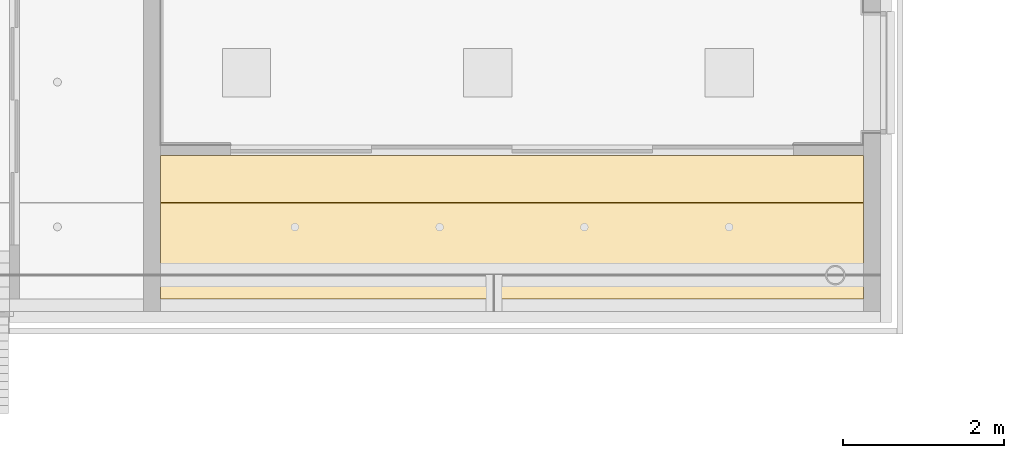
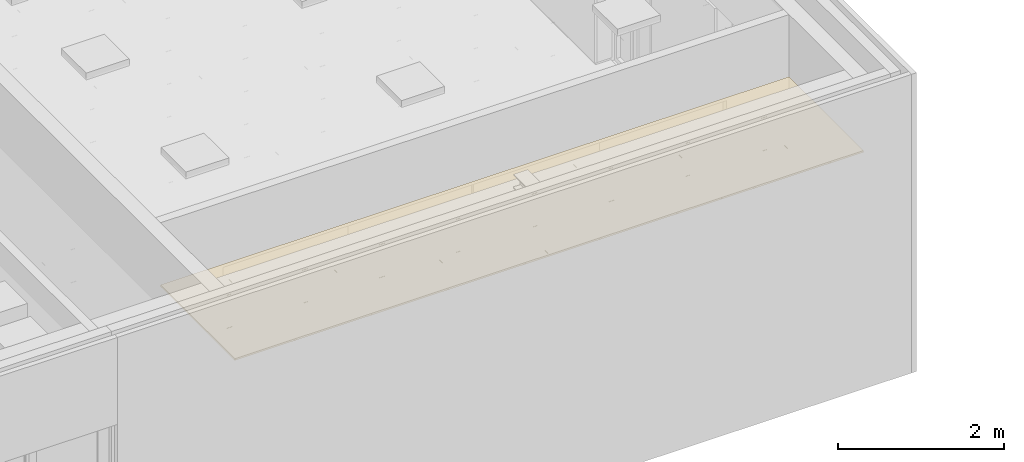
# One storey, part 168 of 347: 1 covering.
"""IFC2X3 building model written with IfcOpenShell, lengths in millimetres."""

from ifc_helpers import new_model, entity, si_unit, converted_unit, derived_unit, money_unit, direction, frame, origin_with_axes, place, context, subcontext, project, spatial, faceted_brep, type_object, element, save


model = new_model("IFC2X3")

# Units and contexts
model_context = context("Model", 3, precision=0.01, world=origin_with_axes(), true_north=direction((0.0, 1.0)))
plan_context = context("Plan", 3, precision=0.01, world=origin_with_axes(), true_north=direction((0.0, 1.0)))
body_context = subcontext(model_context, "Body", "Model", "MODEL_VIEW")
ifc_project = project(units=[si_unit("LENGTHUNIT", "METRE", prefix="MILLI"), si_unit("AREAUNIT", "SQUARE_METRE"), si_unit("VOLUMEUNIT", "CUBIC_METRE"), converted_unit("PLANEANGLEUNIT", "DEGREE", entity("IfcPlaneAngleMeasure", 0.0174532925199), si_unit("PLANEANGLEUNIT", "RADIAN"), dimensions=[0, 0, 0, 0, 0, 0, 0]), money_unit("EUR"), converted_unit("TIMEUNIT", "Year", entity("IfcTimeMeasure", 31556926.0), si_unit("TIMEUNIT", "SECOND"), dimensions=[0, 0, 1, 0, 0, 0, 0]), si_unit("MASSUNIT", "GRAM", prefix="KILO"), si_unit("THERMODYNAMICTEMPERATUREUNIT", "DEGREE_CELSIUS"), si_unit("LUMINOUSINTENSITYUNIT", "LUMEN"), si_unit("ENERGYUNIT", "JOULE", prefix="MEGA"), derived_unit("THERMALCONDUCTANCEUNIT", [(si_unit("POWERUNIT", "WATT"), 1), (si_unit("LENGTHUNIT", "METRE"), -1), (si_unit("THERMODYNAMICTEMPERATUREUNIT", "KELVIN"), -1)]), derived_unit("SPECIFICHEATCAPACITYUNIT", [(si_unit("ENERGYUNIT", "JOULE"), 1), (si_unit("MASSUNIT", "GRAM", prefix="KILO"), -1), (si_unit("THERMODYNAMICTEMPERATUREUNIT", "KELVIN"), -1)]), derived_unit("MASSDENSITYUNIT", [(si_unit("MASSUNIT", "GRAM", prefix="KILO"), 1), (si_unit("VOLUMEUNIT", "CUBIC_METRE"), -1)])], contexts=[model_context, plan_context])

# Site, building, storey
site_placement = place(None, origin_with_axes())
site = spatial("IfcSite", under=ifc_project, at=site_placement, Name="Site", CompositionType="ELEMENT")
building_placement = place(site_placement, origin_with_axes())
building = spatial("IfcBuilding", under=site, at=building_placement, Name="Naam gebouw", CompositionType="ELEMENT")
storey_placement = place(building_placement, origin_with_axes())
storey = spatial("IfcBuildingStorey", under=building, at=storey_placement, Name="begane grond", CompositionType="ELEMENT", Elevation=0.0)

# Covering
covering_type = type_object("IfcCoveringType", Name="Ceiling Editor INT_v2.01", PredefinedType="CEILING")
covering_placement = place(storey_placement, frame((35705.0, 4999.9999988, 2627.0), z_axis=(0.0, 0.0, 1.0), x_axis=(1.0, 0.0, 0.0)))
element("IfcCovering", 1, at=covering_placement, inside=storey, type_object=covering_type, Name="45 Plafondafwerkingen_77 garderobe", PredefinedType="CEILING", context=body_context, shape_type="Brep", body=[
    faceted_brep([(0.0, 599.9, 0.0), (0.0, 599.9, 20.0), (769.900088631, 599.9, 20.0), (769.900088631, 599.9, 0.0), (0.0, 447.502384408, 0.0), (0.0, 447.502384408, 20.0), (0.0, 0.1, 20.0), (769.900088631, 0.1, 20.0), (769.900088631, 0.1, 0.0), (0.0, 0.1, 0.0)], [[[0, 1, 2, 3]], [[1, 0, 4, 5]], [[5, 6, 7, 2, 1]], [[7, 8, 3, 2]], [[4, 0, 3, 8, 9]], [[6, 5, 4, 9]], [[6, 9, 8, 7]]]),
    faceted_brep([(0.0, 1199.9, 0.0), (0.0, 1199.9, 20.0), (769.900088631, 1199.9, 20.0), (769.900088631, 1199.9, 0.0), (0.0, 895.004768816, 0.0), (0.0, 895.004768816, 20.0), (0.0, 600.1, 20.0), (769.900088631, 600.1, 20.0), (769.900088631, 600.1, 0.0), (0.0, 600.1, 0.0)], [[[0, 1, 2, 3]], [[1, 0, 4, 5]], [[5, 6, 7, 2, 1]], [[7, 8, 3, 2]], [[4, 0, 3, 8, 9]], [[6, 5, 4, 9]], [[6, 9, 8, 7]]]),
    faceted_brep([(769.900088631, 1790.00953763, 0.0), (769.900088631, 1790.00953763, 20.0), (769.900088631, 1200.1, 20.0), (769.900088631, 1200.1, 0.0), (0.0, 1790.00953763, 0.0), (0.0, 1790.00953763, 20.0), (0.0, 1342.50715322, 20.0), (0.0, 1200.1, 20.0), (0.0, 1200.1, 0.0), (0.0, 1342.50715322, 0.0)], [[[0, 1, 2, 3]], [[1, 0, 4, 5]], [[6, 7, 2, 1, 5]], [[7, 8, 3, 2]], [[4, 0, 3, 8, 9]], [[6, 5, 4, 9]], [[7, 6, 9, 8]]]),
    faceted_brep([(1969.90008863, 0.1, 20.0), (1969.90008863, 0.1, 0.0), (1969.90008863, 599.9, 0.0), (1969.90008863, 599.9, 20.0), (770.100088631, 0.1, 20.0), (770.100088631, 0.1, 0.0), (770.100088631, 599.9, 0.0), (770.100088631, 599.9, 20.0)], [[[0, 1, 2, 3]], [[4, 5, 1, 0]], [[2, 1, 5, 6]], [[3, 2, 6, 7]], [[4, 0, 3, 7]], [[7, 6, 5, 4]]]),
    faceted_brep([(1969.90008863, 600.1, 20.0), (1969.90008863, 600.1, 0.0), (1969.90008863, 1199.9, 0.0), (1969.90008863, 1199.9, 20.0), (770.100088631, 600.1, 20.0), (770.100088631, 600.1, 0.0), (770.100088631, 1199.9, 0.0), (770.100088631, 1199.9, 20.0)], [[[0, 1, 2, 3]], [[4, 5, 1, 0]], [[2, 1, 5, 6]], [[3, 2, 6, 7]], [[4, 0, 3, 7]], [[7, 6, 5, 4]]]),
    faceted_brep([(1969.90008863, 1790.00953763, 0.0), (1969.90008863, 1790.00953763, 20.0), (1969.90008863, 1200.1, 20.0), (1969.90008863, 1200.1, 0.0), (770.100088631, 1790.00953763, 0.0), (770.100088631, 1790.00953763, 20.0), (770.100088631, 1200.1, 20.0), (770.100088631, 1200.1, 0.0)], [[[0, 1, 2, 3]], [[1, 0, 4, 5]], [[1, 5, 6, 2]], [[6, 7, 3, 2]], [[4, 0, 3, 7]], [[5, 4, 7, 6]]]),
    faceted_brep([(3169.90008863, 0.1, 20.0), (3169.90008863, 0.1, 0.0), (3169.90008863, 599.9, 0.0), (3169.90008863, 599.9, 20.0), (1970.10008863, 0.1, 20.0), (1970.10008863, 0.1, 0.0), (1970.10008863, 599.9, 0.0), (1970.10008863, 599.9, 20.0)], [[[0, 1, 2, 3]], [[4, 5, 1, 0]], [[2, 1, 5, 6]], [[3, 2, 6, 7]], [[4, 0, 3, 7]], [[7, 6, 5, 4]]]),
    faceted_brep([(3169.90008863, 600.1, 20.0), (3169.90008863, 600.1, 0.0), (3169.90008863, 1199.9, 0.0), (3169.90008863, 1199.9, 20.0), (1970.10008863, 600.1, 20.0), (1970.10008863, 600.1, 0.0), (1970.10008863, 1199.9, 0.0), (1970.10008863, 1199.9, 20.0)], [[[0, 1, 2, 3]], [[4, 5, 1, 0]], [[2, 1, 5, 6]], [[3, 2, 6, 7]], [[4, 0, 3, 7]], [[7, 6, 5, 4]]]),
    faceted_brep([(3169.90008863, 1790.00953763, 0.0), (3169.90008863, 1790.00953763, 20.0), (3169.90008863, 1200.1, 20.0), (3169.90008863, 1200.1, 0.0), (2185.00009571, 1790.00953763, 0.0), (2185.00009571, 1790.00953763, 20.0), (1970.10008863, 1790.00953763, 20.0), (1970.10008863, 1200.1, 20.0), (1970.10008863, 1200.1, 0.0), (1970.10008863, 1790.00953763, 0.0)], [[[0, 1, 2, 3]], [[1, 0, 4, 5]], [[5, 6, 7, 2, 1]], [[7, 8, 3, 2]], [[4, 0, 3, 8, 9]], [[6, 5, 4, 9]], [[6, 9, 8, 7]]]),
    faceted_brep([(4369.90008863, 0.1, 20.0), (4369.90008863, 0.1, 0.0), (4369.90008863, 599.9, 0.0), (4369.90008863, 599.9, 20.0), (3170.10008863, 0.1, 20.0), (3170.10008863, 0.1, 0.0), (3170.10008863, 599.9, 0.0), (3170.10008863, 599.9, 20.0)], [[[0, 1, 2, 3]], [[4, 5, 1, 0]], [[2, 1, 5, 6]], [[3, 2, 6, 7]], [[4, 0, 3, 7]], [[7, 6, 5, 4]]]),
    faceted_brep([(4369.90008863, 600.1, 20.0), (4369.90008863, 600.1, 0.0), (4369.90008863, 1199.9, 0.0), (4369.90008863, 1199.9, 20.0), (3170.10008863, 600.1, 20.0), (3170.10008863, 600.1, 0.0), (3170.10008863, 1199.9, 0.0), (3170.10008863, 1199.9, 20.0)], [[[0, 1, 2, 3]], [[4, 5, 1, 0]], [[2, 1, 5, 6]], [[3, 2, 6, 7]], [[4, 0, 3, 7]], [[7, 6, 5, 4]]]),
    faceted_brep([(4369.90008863, 1790.00953763, 0.0), (4369.90008863, 1790.00953763, 20.0), (4369.90008863, 1200.1, 20.0), (4369.90008863, 1200.1, 0.0), (3170.10008863, 1790.00953763, 0.0), (3170.10008863, 1790.00953763, 20.0), (3170.10008863, 1200.1, 20.0), (3170.10008863, 1200.1, 0.0)], [[[0, 1, 2, 3]], [[1, 0, 4, 5]], [[1, 5, 6, 2]], [[6, 7, 3, 2]], [[4, 0, 3, 7]], [[5, 4, 7, 6]]]),
    faceted_brep([(5569.90008863, 0.1, 20.0), (5569.90008863, 0.1, 0.0), (5569.90008863, 599.9, 0.0), (5569.90008863, 599.9, 20.0), (4370.10008863, 0.1, 20.0), (4370.10008863, 0.1, 0.0), (4370.10008863, 599.9, 0.0), (4370.10008863, 599.9, 20.0)], [[[0, 1, 2, 3]], [[4, 5, 1, 0]], [[2, 1, 5, 6]], [[3, 2, 6, 7]], [[4, 0, 3, 7]], [[7, 6, 5, 4]]]),
    faceted_brep([(5569.90008863, 600.1, 20.0), (5569.90008863, 600.1, 0.0), (5569.90008863, 1199.9, 0.0), (5569.90008863, 1199.9, 20.0), (4370.10008863, 600.1, 20.0), (4370.10008863, 600.1, 0.0), (4370.10008863, 1199.9, 0.0), (4370.10008863, 1199.9, 20.0)], [[[0, 1, 2, 3]], [[4, 5, 1, 0]], [[2, 1, 5, 6]], [[3, 2, 6, 7]], [[4, 0, 3, 7]], [[7, 6, 5, 4]]]),
    faceted_brep([(5569.90008863, 1790.00953763, 0.0), (5569.90008863, 1790.00953763, 20.0), (5569.90008863, 1200.1, 20.0), (5569.90008863, 1200.1, 0.0), (4370.10008863, 1790.00953763, 0.0), (4370.10008863, 1790.00953763, 20.0), (4370.10008863, 1200.1, 20.0), (4370.10008863, 1200.1, 0.0)], [[[0, 1, 2, 3]], [[1, 0, 4, 5]], [[1, 5, 6, 2]], [[6, 7, 3, 2]], [[4, 0, 3, 7]], [[5, 4, 7, 6]]]),
    faceted_brep([(6769.90008863, 0.1, 20.0), (6769.90008863, 0.1, 0.0), (6769.90008863, 599.9, 0.0), (6769.90008863, 599.9, 20.0), (5570.10008863, 0.1, 20.0), (5570.10008863, 0.1, 0.0), (5570.10008863, 599.9, 0.0), (5570.10008863, 599.9, 20.0)], [[[0, 1, 2, 3]], [[4, 5, 1, 0]], [[2, 1, 5, 6]], [[3, 2, 6, 7]], [[4, 0, 3, 7]], [[7, 6, 5, 4]]]),
    faceted_brep([(6769.90008863, 600.1, 20.0), (6769.90008863, 600.1, 0.0), (6769.90008863, 1199.9, 0.0), (6769.90008863, 1199.9, 20.0), (5570.10008863, 600.1, 20.0), (5570.10008863, 600.1, 0.0), (5570.10008863, 1199.9, 0.0), (5570.10008863, 1199.9, 20.0)], [[[0, 1, 2, 3]], [[4, 5, 1, 0]], [[2, 1, 5, 6]], [[3, 2, 6, 7]], [[4, 0, 3, 7]], [[7, 6, 5, 4]]]),
    faceted_brep([(6769.90008863, 1790.00953763, 0.0), (6769.90008863, 1790.00953763, 20.0), (6769.90008863, 1200.1, 20.0), (6769.90008863, 1200.1, 0.0), (6555.00028712, 1790.00953763, 0.0), (6555.00028712, 1790.00953763, 20.0), (5570.10008863, 1790.00953763, 20.0), (5570.10008863, 1200.1, 20.0), (5570.10008863, 1200.1, 0.0), (5570.10008863, 1790.00953763, 0.0)], [[[0, 1, 2, 3]], [[1, 0, 4, 5]], [[5, 6, 7, 2, 1]], [[7, 8, 3, 2]], [[4, 0, 3, 8, 9]], [[6, 5, 4, 9]], [[6, 9, 8, 7]]]),
    faceted_brep([(7969.90008863, 0.1, 20.0), (7969.90008863, 0.1, 0.0), (7969.90008863, 599.9, 0.0), (7969.90008863, 599.9, 20.0), (6770.10008863, 0.1, 20.0), (6770.10008863, 0.1, 0.0), (6770.10008863, 599.9, 0.0), (6770.10008863, 599.9, 20.0)], [[[0, 1, 2, 3]], [[4, 5, 1, 0]], [[2, 1, 5, 6]], [[3, 2, 6, 7]], [[4, 0, 3, 7]], [[7, 6, 5, 4]]]),
    faceted_brep([(7969.90008863, 600.1, 20.0), (7969.90008863, 600.1, 0.0), (7969.90008863, 1199.9, 0.0), (7969.90008863, 1199.9, 20.0), (6770.10008863, 600.1, 20.0), (6770.10008863, 600.1, 0.0), (6770.10008863, 1199.9, 0.0), (6770.10008863, 1199.9, 20.0)], [[[0, 1, 2, 3]], [[4, 5, 1, 0]], [[2, 1, 5, 6]], [[3, 2, 6, 7]], [[4, 0, 3, 7]], [[7, 6, 5, 4]]]),
    faceted_brep([(7969.90008863, 1790.00953763, 0.0), (7969.90008863, 1790.00953763, 20.0), (7969.90008863, 1200.1, 20.0), (7969.90008863, 1200.1, 0.0), (6770.10008863, 1790.00953763, 0.0), (6770.10008863, 1790.00953763, 20.0), (6770.10008863, 1200.1, 20.0), (6770.10008863, 1200.1, 0.0)], [[[0, 1, 2, 3]], [[1, 0, 4, 5]], [[1, 5, 6, 2]], [[6, 7, 3, 2]], [[4, 0, 3, 7]], [[5, 4, 7, 6]]]),
    faceted_brep([(8740.00038283, 447.502384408, 20.0), (8740.00038283, 599.9, 20.0), (7970.10008863, 599.9, 20.0), (7970.10008863, 0.1, 20.0), (8740.00038283, 0.1, 20.0), (8740.00038283, 447.502384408, 0.0), (8740.00038283, 599.9, 0.0), (7970.10008863, 599.9, 0.0), (7970.10008863, 0.1, 0.0), (8740.00038283, 0.1, 0.0)], [[[0, 1, 2, 3, 4]], [[1, 0, 5, 6]], [[1, 6, 7, 2]], [[2, 7, 8, 3]], [[9, 4, 3, 8]], [[0, 4, 9, 5]], [[5, 9, 8, 7, 6]]]),
    faceted_brep([(8740.00038283, 895.004768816, 20.0), (8740.00038283, 1199.9, 20.0), (7970.10008863, 1199.9, 20.0), (7970.10008863, 600.1, 20.0), (8740.00038283, 600.1, 20.0), (8740.00038283, 895.004768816, 0.0), (8740.00038283, 1199.9, 0.0), (7970.10008863, 1199.9, 0.0), (7970.10008863, 600.1, 0.0), (8740.00038283, 600.1, 0.0)], [[[0, 1, 2, 3, 4]], [[1, 0, 5, 6]], [[1, 6, 7, 2]], [[2, 7, 8, 3]], [[9, 4, 3, 8]], [[0, 4, 9, 5]], [[5, 9, 8, 7, 6]]]),
    faceted_brep([(8740.00038283, 1342.50715322, 20.0), (8740.00038283, 1790.00953763, 20.0), (7970.10008863, 1790.00953763, 20.0), (7970.10008863, 1200.1, 20.0), (8740.00038283, 1200.1, 20.0), (8740.00038283, 1342.50715322, 0.0), (8740.00038283, 1790.00953763, 0.0), (7970.10008863, 1790.00953763, 0.0), (7970.10008863, 1200.1, 0.0), (8740.00038283, 1200.1, 0.0)], [[[0, 1, 2, 3, 4]], [[1, 0, 5, 6]], [[2, 1, 6, 7]], [[2, 7, 8, 3]], [[9, 4, 3, 8]], [[0, 4, 9, 5]], [[5, 9, 8, 7, 6]]]),
    faceted_brep([(3157.50008863, 25.0, -5.0), (3157.50008863, 25.0, 0.0), (3157.50008863, 587.5, 0.0), (3157.50008863, 587.5, -5.0), (1982.50008863, 25.0, -5.0), (1982.50008863, 25.0, 0.0), (8740.00038283, 587.5, 0.0), (8740.00038283, 612.5, 0.0), (8740.00038283, 1187.5, 0.0), (8740.00038283, 1212.5, 0.0), (8740.00038283, 1787.5, 0.0), (8740.00038283, 1790.00953763, 0.0), (6555.00028712, 1790.00953763, 0.0), (4370.00019141, 1790.00953763, 0.0), (2185.00009571, 1790.00953763, 0.0), (0.0, 1790.00953763, 0.0), (0.0, 1787.5, 0.0), (0.0, 1212.5, 0.0), (0.0, 1187.5, 0.0), (0.0, 612.5, 0.0), (0.0, 587.5, 0.0), (0.0, 12.5, 0.0), (0.0, 0.0, 0.0), (2185.00009571, 0.0, 0.0), (4370.00019141, 0.0, 0.0), (6555.00028712, 0.0, 0.0), (8740.00038283, 0.0, 0.0), (8740.00038283, 12.5, 0.0), (782.500088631, 1187.5, 0.0), (1957.50008863, 1187.5, 0.0), (1957.50008863, 612.5, 0.0), (782.500088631, 612.5, 0.0), (3157.50008863, 1765.00953763, 0.0), (3157.50008863, 1212.5, 0.0), (1982.50008863, 1212.5, 0.0), (1982.50008863, 1765.00953763, 0.0), (3182.50008863, 1187.5, 0.0), (4357.50008863, 1187.5, 0.0), (4357.50008863, 612.5, 0.0), (3182.50008863, 612.5, 0.0), (4382.50008863, 1187.5, 0.0), (5557.50008863, 1187.5, 0.0), (5557.50008863, 612.5, 0.0), (4382.50008863, 612.5, 0.0), (5582.50008863, 1187.5, 0.0), (6757.50008863, 1187.5, 0.0), (6757.50008863, 612.5, 0.0), (5582.50008863, 612.5, 0.0), (6782.50008863, 1187.5, 0.0), (7957.50008863, 1187.5, 0.0), (7957.50008863, 612.5, 0.0), (6782.50008863, 612.5, 0.0), (1957.50008863, 25.0, 0.0), (782.500088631, 25.0, 0.0), (782.500088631, 587.5, 0.0), (1957.50008863, 587.5, 0.0), (1982.50008863, 587.5, 0.0), (4357.50008863, 25.0, 0.0), (3182.50008863, 25.0, 0.0), (3182.50008863, 587.5, 0.0), (4357.50008863, 587.5, 0.0), (5557.50008863, 25.0, 0.0), (4382.50008863, 25.0, 0.0), (4382.50008863, 587.5, 0.0), (5557.50008863, 587.5, 0.0), (5582.50008863, 25.0, 0.0), (5582.50008863, 587.5, 0.0), (6757.50008863, 587.5, 0.0), (6757.50008863, 25.0, 0.0), (7957.50008863, 25.0, 0.0), (6782.50008863, 25.0, 0.0), (6782.50008863, 587.5, 0.0), (7957.50008863, 587.5, 0.0), (1957.50008863, 1765.00953763, 0.0), (1957.50008863, 1212.5, 0.0), (782.500088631, 1212.5, 0.0), (782.500088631, 1765.00953763, 0.0), (1982.50008863, 1187.5, 0.0), (3157.50008863, 1187.5, 0.0), (3157.50008863, 612.5, 0.0), (1982.50008863, 612.5, 0.0), (4357.50008863, 1765.00953763, 0.0), (4357.50008863, 1212.5, 0.0), (3182.50008863, 1212.5, 0.0), (3182.50008863, 1765.00953763, 0.0), (5557.50008863, 1765.00953763, 0.0), (5557.50008863, 1212.5, 0.0), (4382.50008863, 1212.5, 0.0), (4382.50008863, 1765.00953763, 0.0), (6757.50008863, 1765.00953763, 0.0), (6757.50008863, 1212.5, 0.0), (5582.50008863, 1212.5, 0.0), (5582.50008863, 1765.00953763, 0.0), (7957.50008863, 1765.00953763, 0.0), (7957.50008863, 1212.5, 0.0), (6782.50008863, 1212.5, 0.0), (6782.50008863, 1765.00953763, 0.0), (25.0, 587.5, 0.0), (757.500088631, 587.5, 0.0), (757.500088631, 25.0, 0.0), (25.0, 25.0, 0.0), (25.0, 1187.5, 0.0), (757.500088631, 1187.5, 0.0), (757.500088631, 612.5, 0.0), (25.0, 612.5, 0.0), (757.500088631, 1765.00953763, 0.0), (757.500088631, 1212.5, 0.0), (25.0, 1212.5, 0.0), (25.0, 1765.00953763, 0.0), (8715.00038283, 1212.5, 0.0), (7982.50008863, 1212.5, 0.0), (7982.50008863, 1765.00953763, 0.0), (8715.00038283, 1765.00953763, 0.0), (8715.00038283, 612.5, 0.0), (7982.50008863, 612.5, 0.0), (7982.50008863, 1187.5, 0.0), (8715.00038283, 1187.5, 0.0), (8715.00038283, 25.0, 0.0), (7982.50008863, 25.0, 0.0), (7982.50008863, 587.5, 0.0), (8715.00038283, 587.5, 0.0), (1982.50008863, 587.5, -5.0), (8740.00038283, 12.5, -5.0), (8740.00038283, 0.0, -5.0), (6555.00028712, 0.0, -5.0), (4370.00019141, 0.0, -5.0), (2185.00009571, 0.0, -5.0), (0.0, 0.0, -5.0), (0.0, 12.5, -5.0), (0.0, 587.5, -5.0), (0.0, 612.5, -5.0), (0.0, 1187.5, -5.0), (0.0, 1212.5, -5.0), (0.0, 1787.5, -5.0), (0.0, 1790.00953763, -5.0), (2185.00009571, 1790.00953763, -5.0), (4370.00019141, 1790.00953763, -5.0), (6555.00028712, 1790.00953763, -5.0), (8740.00038283, 1790.00953763, -5.0), (8740.00038283, 1787.5, -5.0), (8740.00038283, 1212.5, -5.0), (8740.00038283, 1187.5, -5.0), (8740.00038283, 612.5, -5.0), (8740.00038283, 587.5, -5.0), (782.500088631, 1765.00953763, -5.0), (782.500088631, 1212.5, -5.0), (1957.50008863, 1212.5, -5.0), (1957.50008863, 1765.00953763, -5.0), (3157.50008863, 612.5, -5.0), (3157.50008863, 1187.5, -5.0), (1982.50008863, 1187.5, -5.0), (1982.50008863, 612.5, -5.0), (4357.50008863, 612.5, -5.0), (4357.50008863, 1187.5, -5.0), (3182.50008863, 1187.5, -5.0), (3182.50008863, 612.5, -5.0), (5557.50008863, 612.5, -5.0), (5557.50008863, 1187.5, -5.0), (4382.50008863, 1187.5, -5.0), (4382.50008863, 612.5, -5.0), (6757.50008863, 612.5, -5.0), (6757.50008863, 1187.5, -5.0), (5582.50008863, 1187.5, -5.0), (5582.50008863, 612.5, -5.0), (7957.50008863, 612.5, -5.0), (7957.50008863, 1187.5, -5.0), (6782.50008863, 1187.5, -5.0), (6782.50008863, 612.5, -5.0), (1957.50008863, 25.0, -5.0), (1957.50008863, 587.5, -5.0), (782.500088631, 587.5, -5.0), (782.500088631, 25.0, -5.0), (4357.50008863, 25.0, -5.0), (4357.50008863, 587.5, -5.0), (3182.50008863, 587.5, -5.0), (3182.50008863, 25.0, -5.0), (5557.50008863, 25.0, -5.0), (5557.50008863, 587.5, -5.0), (4382.50008863, 587.5, -5.0), (4382.50008863, 25.0, -5.0), (6757.50008863, 25.0, -5.0), (6757.50008863, 587.5, -5.0), (5582.50008863, 587.5, -5.0), (5582.50008863, 25.0, -5.0), (7957.50008863, 25.0, -5.0), (7957.50008863, 587.5, -5.0), (6782.50008863, 587.5, -5.0), (6782.50008863, 25.0, -5.0), (1957.50008863, 612.5, -5.0), (1957.50008863, 1187.5, -5.0), (782.500088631, 1187.5, -5.0), (782.500088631, 612.5, -5.0), (1982.50008863, 1765.00953763, -5.0), (1982.50008863, 1212.5, -5.0), (3157.50008863, 1212.5, -5.0), (3157.50008863, 1765.00953763, -5.0), (3182.50008863, 1765.00953763, -5.0), (3182.50008863, 1212.5, -5.0), (4357.50008863, 1212.5, -5.0), (4357.50008863, 1765.00953763, -5.0), (4382.50008863, 1765.00953763, -5.0), (4382.50008863, 1212.5, -5.0), (5557.50008863, 1212.5, -5.0), (5557.50008863, 1765.00953763, -5.0), (5582.50008863, 1765.00953763, -5.0), (5582.50008863, 1212.5, -5.0), (6757.50008863, 1212.5, -5.0), (6757.50008863, 1765.00953763, -5.0), (6782.50008863, 1765.00953763, -5.0), (6782.50008863, 1212.5, -5.0), (7957.50008863, 1212.5, -5.0), (7957.50008863, 1765.00953763, -5.0), (25.0, 587.5, -5.0), (25.0, 25.0, -5.0), (757.500088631, 25.0, -5.0), (757.500088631, 587.5, -5.0), (25.0, 1187.5, -5.0), (25.0, 612.5, -5.0), (757.500088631, 612.5, -5.0), (757.500088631, 1187.5, -5.0), (25.0, 1765.00953763, -5.0), (25.0, 1212.5, -5.0), (757.500088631, 1212.5, -5.0), (757.500088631, 1765.00953763, -5.0), (8715.00038283, 1765.00953763, -5.0), (7982.50008863, 1765.00953763, -5.0), (7982.50008863, 1212.5, -5.0), (8715.00038283, 1212.5, -5.0), (8715.00038283, 1187.5, -5.0), (7982.50008863, 1187.5, -5.0), (7982.50008863, 612.5, -5.0), (8715.00038283, 612.5, -5.0), (8715.00038283, 25.0, -5.0), (8715.00038283, 587.5, -5.0), (7982.50008863, 587.5, -5.0), (7982.50008863, 25.0, -5.0)], [[[0, 1, 2, 3]], [[1, 0, 4, 5]], [[6, 7, 8, 9, 10, 11, 12, 13, 14, 15, 16, 17, 18, 19, 20, 21, 22, 23, 24, 25, 26, 27], [28, 29, 30, 31], [32, 33, 34, 35], [36, 37, 38, 39], [40, 41, 42, 43], [44, 45, 46, 47], [48, 49, 50, 51], [52, 53, 54, 55], [1, 5, 56, 2], [57, 58, 59, 60], [61, 62, 63, 64], [65, 66, 67, 68], [69, 70, 71, 72], [73, 74, 75, 76], [77, 78, 79, 80], [81, 82, 83, 84], [85, 86, 87, 88], [89, 90, 91, 92], [93, 94, 95, 96], [97, 98, 99, 100], [101, 102, 103, 104], [105, 106, 107, 108], [109, 110, 111, 112], [113, 114, 115, 116], [117, 118, 119, 120]], [[121, 3, 2, 56]], [[122, 123, 124, 125, 126, 127, 128, 129, 130, 131, 132, 133, 134, 135, 136, 137, 138, 139, 140, 141, 142, 143], [144, 145, 146, 147], [148, 149, 150, 151], [152, 153, 154, 155], [156, 157, 158, 159], [160, 161, 162, 163], [164, 165, 166, 167], [168, 169, 170, 171], [0, 3, 121, 4], [172, 173, 174, 175], [176, 177, 178, 179], [180, 181, 182, 183], [184, 185, 186, 187], [188, 189, 190, 191], [192, 193, 194, 195], [196, 197, 198, 199], [200, 201, 202, 203], [204, 205, 206, 207], [208, 209, 210, 211], [212, 213, 214, 215], [216, 217, 218, 219], [220, 221, 222, 223], [224, 225, 226, 227], [228, 229, 230, 231], [232, 233, 234, 235]], [[5, 4, 121, 56]], [[122, 143, 142, 141, 140, 139, 138, 11, 10, 9, 8, 7, 6, 27, 26, 123]], [[138, 137, 12, 11]], [[137, 136, 13, 12]], [[14, 13, 136, 135]], [[135, 134, 15, 14]], [[16, 15, 134, 133, 132, 131, 130, 129, 128, 127, 22, 21, 20, 19, 18, 17]], [[126, 23, 22, 127]], [[23, 126, 125, 24]], [[124, 25, 24, 125]], [[123, 26, 25, 124]], [[190, 189, 29, 28]], [[30, 29, 189, 188]], [[31, 30, 188, 191]], [[191, 190, 28, 31]], [[32, 195, 194, 33]], [[34, 33, 194, 193]], [[192, 35, 34, 193]], [[195, 32, 35, 192]], [[154, 153, 37, 36]], [[38, 37, 153, 152]], [[39, 38, 152, 155]], [[155, 154, 36, 39]], [[158, 157, 41, 40]], [[42, 41, 157, 156]], [[43, 42, 156, 159]], [[159, 158, 40, 43]], [[162, 161, 45, 44]], [[46, 45, 161, 160]], [[47, 46, 160, 163]], [[163, 162, 44, 47]], [[166, 165, 49, 48]], [[50, 49, 165, 164]], [[51, 50, 164, 167]], [[167, 166, 48, 51]], [[52, 168, 171, 53]], [[53, 171, 170, 54]], [[170, 169, 55, 54]], [[168, 52, 55, 169]], [[57, 172, 175, 58]], [[58, 175, 174, 59]], [[174, 173, 60, 59]], [[172, 57, 60, 173]], [[61, 176, 179, 62]], [[62, 179, 178, 63]], [[178, 177, 64, 63]], [[176, 61, 64, 177]], [[65, 183, 182, 66]], [[182, 181, 67, 66]], [[180, 68, 67, 181]], [[65, 68, 180, 183]], [[69, 184, 187, 70]], [[70, 187, 186, 71]], [[186, 185, 72, 71]], [[184, 69, 72, 185]], [[73, 147, 146, 74]], [[75, 74, 146, 145]], [[144, 76, 75, 145]], [[147, 73, 76, 144]], [[150, 149, 78, 77]], [[79, 78, 149, 148]], [[80, 79, 148, 151]], [[151, 150, 77, 80]], [[81, 199, 198, 82]], [[83, 82, 198, 197]], [[196, 84, 83, 197]], [[199, 81, 84, 196]], [[85, 203, 202, 86]], [[87, 86, 202, 201]], [[200, 88, 87, 201]], [[203, 85, 88, 200]], [[89, 207, 206, 90]], [[91, 90, 206, 205]], [[204, 92, 91, 205]], [[207, 89, 92, 204]], [[93, 211, 210, 94]], [[95, 94, 210, 209]], [[208, 96, 95, 209]], [[211, 93, 96, 208]], [[97, 212, 215, 98]], [[214, 99, 98, 215]], [[213, 100, 99, 214]], [[212, 97, 100, 213]], [[101, 216, 219, 102]], [[103, 102, 219, 218]], [[217, 104, 103, 218]], [[216, 101, 104, 217]], [[105, 223, 222, 106]], [[221, 107, 106, 222]], [[220, 108, 107, 221]], [[223, 105, 108, 220]], [[109, 227, 226, 110]], [[225, 111, 110, 226]], [[224, 112, 111, 225]], [[109, 112, 224, 227]], [[113, 231, 230, 114]], [[230, 229, 115, 114]], [[228, 116, 115, 229]], [[113, 116, 228, 231]], [[117, 232, 235, 118]], [[118, 235, 234, 119]], [[233, 120, 119, 234]], [[232, 117, 120, 233]]]),
])

save(model, "model.ifc")
